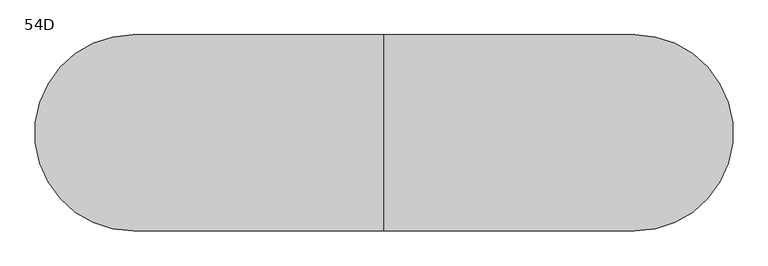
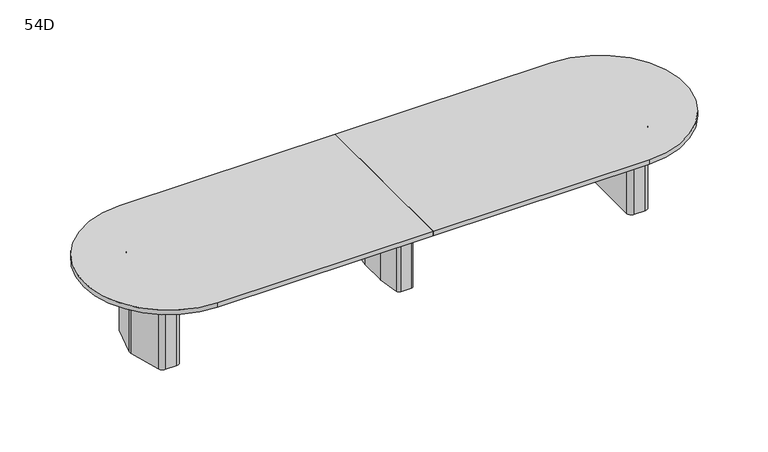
"""IFC4 building model written with IfcOpenShell, lengths in millimetres: furniture geometry, Coalesse_AM_Table_Conference_ETable2_Racetrack_16ft_ThreeBase : 54D."""

from ifc_helpers import new_model, si_unit, point, frame, frame_2d, origin, place, context, project, spatial, polyline, circle_curve, trimmed, segment, composite_curve, outline, extrude, source, transform, mapped, element, save
from ifc_brep_helpers import plane_surface, cylinder_surface, revolved_surface, advanced_brep


def furniture_54d_5252a1df(model_context):
    return source(origin(), model_context, "Body", "SolidModel", [
        advanced_brep(
        [(35.71875, 206.375, 3.175), (10.31875, 231.775, 3.175), (-10.31875, 231.775, 3.175), (-35.71875, 206.375, 3.175), (-35.71875, -206.375, 3.175), (-10.31875, -231.775, 3.175), (10.31875, -231.775, 3.175), (35.71875, -206.375, 3.175), (-61.11875, 206.375, 0.0), (-10.31875, 257.175, 0.0), (10.31875, 257.175, 0.0), (61.11875, 206.375, 0.0), (61.11875, -206.375, 0.0), (10.31875, -257.175, 0.0), (-10.31875, -257.175, 0.0), (-61.11875, -206.375, 0.0), (-61.11875, -206.375, 3.175), (-61.11875, 206.375, 3.175), (-10.31875, -257.175, 3.175), (10.31875, -257.175, 3.175), (61.11875, -206.375, 3.175), (61.11875, 206.375, 3.175), (10.31875, 257.175, 3.175), (-10.31875, 257.175, 3.175), (-92.6215974, 106.2976848, 698.5), (-92.86875, 102.7629613, 698.5), (-92.86875, -102.7629613, 698.5), (-92.6215974, -106.2976848, 698.5), (-67.7988375, -282.9347235, 698.5), (-42.6459902, -304.8, 698.5), (42.6459902, -304.8, 698.5), (67.7988375, -282.9347235, 698.5), (92.6215974, -106.2976848, 698.5), (92.86875, -102.7629613, 698.5), (92.86875, 102.7629613, 698.5), (92.6215974, 106.2976848, 698.5), (67.7988375, 282.9347235, 698.5), (42.6459902, 304.8, 698.5), (-42.6459902, 304.8, 698.5), (-67.7988375, 282.9347235, 698.5), (10.31875, 231.775, 698.5), (35.71875, 206.375, 698.5), (35.71875, -206.375, 698.5), (10.31875, -231.775, 698.5), (-10.31875, -231.775, 698.5), (-35.71875, -206.375, 698.5), (-35.71875, 206.375, 698.5), (-10.31875, 231.775, 698.5), (-92.6215974, 106.2976848, 3.175), (-67.7988375, 282.9347235, 3.175), (-42.6459902, 304.8, 3.175), (42.6459902, 304.8, 3.175), (67.7988375, 282.9347235, 3.175), (92.6215974, 106.2976848, 3.175), (92.86875, 102.7629613, 3.175), (92.86875, -102.7629613, 3.175), (92.6215974, -106.2976848, 3.175), (67.7988375, -282.9347235, 3.175), (42.6459902, -304.8, 3.175), (-42.6459902, -304.8, 3.175), (-67.7988375, -282.9347235, 3.175), (-92.6215974, -106.2976848, 3.175), (-92.86875, -102.7629613, 3.175), (-92.86875, 102.7629613, 3.175)],
        [
            (0, 1, circle_curve(frame((10.31875, 206.375, 3.175), z_axis=(0.0, 0.0, 1.0), x_axis=(1.0, 0.0, 0.0)), 25.4)),
            (1, 2),
            (2, 3, circle_curve(frame((-10.31875, 206.375, 3.175), z_axis=(0.0, 0.0, 1.0), x_axis=(1.0, 0.0, 0.0)), 25.4)),
            (3, 4),
            (4, 5, circle_curve(frame((-10.31875, -206.375, 3.175), z_axis=(0.0, 0.0, 1.0), x_axis=(1.0, 0.0, 0.0)), 25.4)),
            (5, 6),
            (6, 7, circle_curve(frame((10.31875, -206.375, 3.175), z_axis=(0.0, 0.0, 1.0), x_axis=(1.0, 0.0, 0.0)), 25.4)),
            (7, 0),
            (8, 9, circle_curve(frame((-10.31875, 206.375, 0.0), z_axis=(0.0, 0.0, -1.0), x_axis=(1.0, 0.0, 0.0)), 50.8)),
            (9, 10),
            (10, 11, circle_curve(frame((10.31875, 206.375, 0.0), z_axis=(0.0, 0.0, -1.0), x_axis=(1.0, 0.0, 0.0)), 50.8)),
            (11, 12),
            (12, 13, circle_curve(frame((10.31875, -206.375, 0.0), z_axis=(0.0, 0.0, -1.0), x_axis=(1.0, 0.0, 0.0)), 50.8)),
            (13, 14),
            (14, 15, circle_curve(frame((-10.31875, -206.375, 0.0), z_axis=(0.0, 0.0, -1.0), x_axis=(1.0, 0.0, 0.0)), 50.8)),
            (15, 8),
            (15, 16),
            (16, 17),
            (17, 8),
            (14, 18),
            (18, 16, circle_curve(frame((-10.31875, -206.375, 3.175), z_axis=(0.0, 0.0, -1.0), x_axis=(1.0, 0.0, 0.0)), 50.8)),
            (13, 19),
            (19, 18),
            (12, 20),
            (20, 19, circle_curve(frame((10.31875, -206.375, 3.175), z_axis=(0.0, 0.0, -1.0), x_axis=(1.0, 0.0, 0.0)), 50.8)),
            (11, 21),
            (21, 20),
            (10, 22),
            (22, 21, circle_curve(frame((10.31875, 206.375, 3.175), z_axis=(0.0, 0.0, -1.0), x_axis=(1.0, 0.0, 0.0)), 50.8)),
            (9, 23),
            (23, 22),
            (17, 23, circle_curve(frame((-10.31875, 206.375, 3.175), z_axis=(0.0, 0.0, -1.0), x_axis=(1.0, 0.0, 0.0)), 50.8)),
            (24, 25, circle_curve(frame((-67.46875, 102.7629613, 698.5), z_axis=(0.0, 0.0, 1.0), x_axis=(1.0, 0.0, 0.0)), 25.4)),
            (25, 26),
            (26, 27, circle_curve(frame((-67.46875, -102.7629613, 698.5), z_axis=(0.0, 0.0, 1.0), x_axis=(1.0, 0.0, 0.0)), 25.4)),
            (27, 28),
            (28, 29, circle_curve(frame((-42.6459902, -279.4, 698.5), z_axis=(0.0, 0.0, 1.0), x_axis=(1.0, 0.0, 0.0)), 25.4)),
            (29, 30),
            (30, 31, circle_curve(frame((42.6459902, -279.4, 698.5), z_axis=(0.0, 0.0, 1.0), x_axis=(1.0, 0.0, 0.0)), 25.4)),
            (31, 32),
            (32, 33, circle_curve(frame((67.46875, -102.7629613, 698.5), z_axis=(0.0, 0.0, 1.0), x_axis=(1.0, 0.0, 0.0)), 25.4)),
            (33, 34),
            (34, 35, circle_curve(frame((67.46875, 102.7629613, 698.5), z_axis=(0.0, 0.0, 1.0), x_axis=(1.0, 0.0, 0.0)), 25.4)),
            (35, 36),
            (36, 37, circle_curve(frame((42.6459902, 279.4, 698.5), z_axis=(0.0, 0.0, 1.0), x_axis=(1.0, 0.0, 0.0)), 25.4)),
            (37, 38),
            (38, 39, circle_curve(frame((-42.6459902, 279.4, 698.5), z_axis=(0.0, 0.0, 1.0), x_axis=(1.0, 0.0, 0.0)), 25.4)),
            (39, 24),
            (40, 41, circle_curve(frame((10.31875, 206.375, 698.5), z_axis=(0.0, 0.0, -1.0), x_axis=(1.0, 0.0, 0.0)), 25.4)),
            (41, 42),
            (42, 43, circle_curve(frame((10.31875, -206.375, 698.5), z_axis=(0.0, 0.0, -1.0), x_axis=(1.0, 0.0, 0.0)), 25.4)),
            (43, 44),
            (44, 45, circle_curve(frame((-10.31875, -206.375, 698.5), z_axis=(0.0, 0.0, -1.0), x_axis=(1.0, 0.0, 0.0)), 25.4)),
            (45, 46),
            (46, 47, circle_curve(frame((-10.31875, 206.375, 698.5), z_axis=(0.0, 0.0, -1.0), x_axis=(1.0, 0.0, 0.0)), 25.4)),
            (47, 40),
            (48, 49),
            (49, 50, circle_curve(frame((-42.6459902, 279.4, 3.175), z_axis=(0.0, 0.0, -1.0), x_axis=(1.0, 0.0, 0.0)), 25.4)),
            (50, 51),
            (51, 52, circle_curve(frame((42.6459902, 279.4, 3.175), z_axis=(0.0, 0.0, -1.0), x_axis=(1.0, 0.0, 0.0)), 25.4)),
            (52, 53),
            (53, 54, circle_curve(frame((67.46875, 102.7629613, 3.175), z_axis=(0.0, 0.0, -1.0), x_axis=(1.0, 0.0, 0.0)), 25.4)),
            (54, 55),
            (55, 56, circle_curve(frame((67.46875, -102.7629613, 3.175), z_axis=(0.0, 0.0, -1.0), x_axis=(1.0, 0.0, 0.0)), 25.4)),
            (56, 57),
            (57, 58, circle_curve(frame((42.6459902, -279.4, 3.175), z_axis=(0.0, 0.0, -1.0), x_axis=(1.0, 0.0, 0.0)), 25.4)),
            (58, 59),
            (59, 60, circle_curve(frame((-42.6459902, -279.4, 3.175), z_axis=(0.0, 0.0, -1.0), x_axis=(1.0, 0.0, 0.0)), 25.4)),
            (60, 61),
            (61, 62, circle_curve(frame((-67.46875, -102.7629613, 3.175), z_axis=(0.0, 0.0, -1.0), x_axis=(1.0, 0.0, 0.0)), 25.4)),
            (62, 63),
            (63, 48, circle_curve(frame((-67.46875, 102.7629613, 3.175), z_axis=(0.0, 0.0, -1.0), x_axis=(1.0, 0.0, 0.0)), 25.4)),
            (24, 48),
            (63, 25),
            (62, 26),
            (61, 27),
            (60, 28),
            (59, 29),
            (58, 30),
            (57, 31),
            (56, 32),
            (55, 33),
            (54, 34),
            (53, 35),
            (52, 36),
            (51, 37),
            (50, 38),
            (49, 39),
            (40, 1),
            (0, 41),
            (7, 42),
            (6, 43),
            (5, 44),
            (4, 45),
            (3, 46),
            (2, 47),
        ],
        [
            plane_surface(frame((-61.11875, -206.375, 3.175), z_axis=(0.0, 0.0, 1.0), x_axis=(0.0, -1.0, 0.0))),
            plane_surface(frame((-61.11875, -206.375, 0.0), z_axis=(0.0, 0.0, -1.0), x_axis=(0.0, 1.0, 0.0))),
            plane_surface(frame((-61.11875, 206.375, 3.175), z_axis=(-1.0, 0.0, 0.0), x_axis=(0.0, 0.0, -1.0))),
            cylinder_surface(frame((-10.31875, -206.375, 0.0), z_axis=(0.0, 0.0, 1.0), x_axis=(1.0, 0.0, 0.0)), 50.8),
            plane_surface(frame((-10.31875, -257.175, 3.175), z_axis=(0.0, -1.0, 0.0), x_axis=(0.0, 0.0, -1.0))),
            cylinder_surface(frame((10.31875, -206.375, 0.0), z_axis=(0.0, 0.0, 1.0), x_axis=(1.0, 0.0, 0.0)), 50.8),
            plane_surface(frame((61.11875, -206.375, 3.175), z_axis=(1.0, 0.0, 0.0), x_axis=(0.0, 0.0, -1.0))),
            cylinder_surface(frame((10.31875, 206.375, 0.0), z_axis=(0.0, 0.0, 1.0), x_axis=(1.0, 0.0, 0.0)), 50.8),
            plane_surface(frame((10.31875, 257.175, 3.175), z_axis=(0.0, 1.0, 0.0), x_axis=(0.0, 0.0, -1.0))),
            cylinder_surface(frame((-10.31875, 206.375, 0.0), z_axis=(0.0, 0.0, 1.0), x_axis=(1.0, 0.0, 0.0)), 50.8),
            plane_surface(frame((-42.06875, 102.7629613, 698.5), z_axis=(0.0, 0.0, 1.0), x_axis=(0.0, 1.0, 0.0))),
            plane_surface(frame((-42.06875, 102.7629613, 3.175), z_axis=(0.0, 0.0, -1.0), x_axis=(0.0, -1.0, 0.0))),
            cylinder_surface(frame((-67.46875, 102.7629613, 3.175), z_axis=(0.0, 0.0, 1.0), x_axis=(1.0, 0.0, 0.0)), 25.4),
            plane_surface(frame((-92.86875, 102.7629613, 698.5), z_axis=(-1.0, 0.0, 0.0), x_axis=(0.0, 0.0, -1.0))),
            cylinder_surface(frame((-67.46875, -102.7629613, 3.175), z_axis=(0.0, 0.0, 1.0), x_axis=(1.0, 0.0, 0.0)), 25.4),
            plane_surface(frame((-92.6215974, -106.2976848, 698.5), z_axis=(-0.9902695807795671, -0.13916234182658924, 0.0), x_axis=(0.0, 0.0, -1.0))),
            cylinder_surface(frame((-42.6459902, -279.4, 3.175), z_axis=(0.0, 0.0, 1.0), x_axis=(1.0, 0.0, 0.0)), 25.4),
            plane_surface(frame((-42.6459902, -304.8, 698.5), z_axis=(0.0, -1.0, 0.0), x_axis=(0.0, 0.0, -1.0))),
            cylinder_surface(frame((42.6459902, -279.4, 3.175), z_axis=(0.0, 0.0, 1.0), x_axis=(1.0, 0.0, 0.0)), 25.4),
            plane_surface(frame((67.7988375, -282.9347235, 698.5), z_axis=(0.9902695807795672, -0.13916234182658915, 0.0), x_axis=(0.0, 0.0, -1.0))),
            cylinder_surface(frame((67.46875, -102.7629613, 3.175), z_axis=(0.0, 0.0, 1.0), x_axis=(1.0, 0.0, 0.0)), 25.4),
            plane_surface(frame((92.86875, -102.7629613, 698.5), z_axis=(1.0, 0.0, 0.0), x_axis=(0.0, 0.0, -1.0))),
            cylinder_surface(frame((67.46875, 102.7629613, 3.175), z_axis=(0.0, 0.0, 1.0), x_axis=(1.0, 0.0, 0.0)), 25.4),
            plane_surface(frame((92.6215974, 106.2976848, 698.5), z_axis=(0.9902695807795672, 0.1391623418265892, 0.0), x_axis=(0.0, 0.0, -1.0))),
            cylinder_surface(frame((42.6459902, 279.4, 3.175), z_axis=(0.0, 0.0, 1.0), x_axis=(1.0, 0.0, 0.0)), 25.4),
            plane_surface(frame((42.6459902, 304.8, 698.5), z_axis=(0.0, 1.0, 0.0), x_axis=(0.0, 0.0, -1.0))),
            cylinder_surface(frame((-42.6459902, 279.4, 3.175), z_axis=(0.0, 0.0, 1.0), x_axis=(1.0, 0.0, 0.0)), 25.4),
            plane_surface(frame((-67.7988375, 282.9347235, 698.5), z_axis=(-0.9902695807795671, 0.13916234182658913, 0.0), x_axis=(0.0, 0.0, -1.0))),
            revolved_surface(polyline([(35.71875, 206.375, 3.175), (35.71875, 206.375, 698.5)]), (10.31875, 206.375, 0.0), (0.0, 0.0, -1.0)),
            plane_surface(frame((35.71875, 206.375, 698.5), z_axis=(-1.0, 0.0, 0.0), x_axis=(0.0, 0.0, -1.0))),
            revolved_surface(polyline([(35.71875, -206.375, 3.175), (35.71875, -206.375, 698.5)]), (10.31875, -206.375, 0.0), (0.0, 0.0, -1.0)),
            plane_surface(frame((10.31875, -231.775, 698.5), z_axis=(0.0, 1.0, 0.0), x_axis=(0.0, 0.0, -1.0))),
            revolved_surface(polyline([(15.081249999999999, -206.375, 3.175), (15.081249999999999, -206.375, 698.5)]), (-10.31875, -206.375, 0.0), (0.0, 0.0, -1.0)),
            plane_surface(frame((-35.71875, -206.375, 698.5), z_axis=(1.0, 0.0, 0.0), x_axis=(0.0, 0.0, -1.0))),
            revolved_surface(polyline([(15.081249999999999, 206.375, 3.175), (15.081249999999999, 206.375, 698.5)]), (-10.31875, 206.375, 0.0), (0.0, 0.0, -1.0)),
            plane_surface(frame((-10.31875, 231.775, 698.5), z_axis=(0.0, -1.0, 0.0), x_axis=(0.0, 0.0, -1.0))),
        ],
        [
            (0, [[1, 2, 3, 4, 5, 6, 7, 8]]),
            (1, [[9, 10, 11, 12, 13, 14, 15, 16]]),
            (2, [[-16, 17, 18, 19]]),
            (3, [[-15, 20, 21, -17]]),
            (4, [[-14, 22, 23, -20]]),
            (5, [[-13, 24, 25, -22]]),
            (6, [[-12, 26, 27, -24]]),
            (7, [[-11, 28, 29, -26]]),
            (8, [[-10, 30, 31, -28]]),
            (9, [[-9, -19, 32, -30]]),
            (10, [[33, 34, 35, 36, 37, 38, 39, 40, 41, 42, 43, 44, 45, 46, 47, 48], [49, 50, 51, 52, 53, 54, 55, 56]]),
            (11, [[57, 58, 59, 60, 61, 62, 63, 64, 65, 66, 67, 68, 69, 70, 71, 72], [-18, -21, -23, -25, -27, -29, -31, -32]]),
            (12, [[-33, 73, -72, 74]]),
            (13, [[-34, -74, -71, 75]]),
            (14, [[-35, -75, -70, 76]]),
            (15, [[-36, -76, -69, 77]]),
            (16, [[-37, -77, -68, 78]]),
            (17, [[-38, -78, -67, 79]]),
            (18, [[-39, -79, -66, 80]]),
            (19, [[-40, -80, -65, 81]]),
            (20, [[-41, -81, -64, 82]]),
            (21, [[-42, -82, -63, 83]]),
            (22, [[-43, -83, -62, 84]]),
            (23, [[-44, -84, -61, 85]]),
            (24, [[-45, -85, -60, 86]]),
            (25, [[-46, -86, -59, 87]]),
            (26, [[-47, -87, -58, 88]]),
            (27, [[-48, -88, -57, -73]]),
            (28, [[-49, 89, -1, 90]]),
            (29, [[-50, -90, -8, 91]]),
            (30, [[-51, -91, -7, 92]]),
            (31, [[-52, -92, -6, 93]]),
            (32, [[-53, -93, -5, 94]]),
            (33, [[-54, -94, -4, 95]]),
            (34, [[-55, -95, -3, 96]]),
            (35, [[-56, -96, -2, -89]]),
        ],
    ),
        advanced_brep(
        [(1979.824548, 274.2093613, 698.5), (1939.9579246, 304.8, 698.5), (1851.025, 304.8, 698.5), (1809.75, 263.525, 698.5), (1809.75, -263.525, 698.5), (1851.025, -304.8, 698.5), (1939.9579246, -304.8, 698.5), (1979.824548, -274.2093613, 698.5), (2050.4503901, -10.6333708, 698.5), (2050.4503901, 10.6333708, 698.5), (1847.85, -206.375, 698.5), (1847.85, 206.375, 698.5), (1873.25, 231.775, 698.5), (1932.2608422, 231.775, 698.5), (1956.795338, 212.9490792, 698.5), (1995.4875, 68.54974, 698.5), (1995.4875, -68.54974, 698.5), (1956.795338, -212.9490792, 698.5), (1932.2608422, -231.775, 698.5), (1873.25, -231.775, 698.5), (1979.824548, 274.2093613, 3.175), (2050.4503901, 10.6333708, 3.175), (2050.4503901, -10.6333708, 3.175), (1979.824548, -274.2093613, 3.175), (1939.9579246, -304.8, 3.175), (1851.025, -304.8, 3.175), (1809.75, -263.525, 3.175), (1809.75, 263.525, 3.175), (1851.025, 304.8, 3.175), (1939.9579246, 304.8, 3.175), (1969.0625859, 216.2361187, 3.175), (1932.2608422, 244.475, 3.175), (1873.25, 244.475, 3.175), (1835.15, 206.375, 3.175), (1835.15, -206.375, 3.175), (1873.25, -244.475, 3.175), (1932.2608422, -244.475, 3.175), (1969.0625859, -216.2361187, 3.175), (2008.1875, -70.2217466, 3.175), (2008.1875, 70.2217466, 3.175), (1873.25, -231.775, 3.175), (1847.85, -206.375, 3.175), (1932.2608422, -231.775, 3.175), (1956.795338, -212.9490792, 3.175), (1995.4875, -68.54974, 3.175), (1995.4875, 68.54974, 3.175), (1956.795338, 212.9490792, 3.175), (1932.2608422, 231.775, 3.175), (1873.25, 231.775, 3.175), (1847.85, 206.375, 3.175), (1969.0625859, 216.2361187, 0.0), (2008.1875, 70.2217466, 0.0), (2008.1875, -70.2217466, 0.0), (1969.0625859, -216.2361187, 0.0), (1932.2608422, -244.475, 0.0), (1873.25, -244.475, 0.0), (1835.15, -206.375, 0.0), (1835.15, 206.375, 0.0), (1873.25, 244.475, 0.0), (1932.2608422, 244.475, 0.0)],
        [
            (0, 1, circle_curve(frame((1939.9579246, 263.5270004, 698.5), z_axis=(0.0, 0.0, 1.0), x_axis=(-1.0, 0.0, 0.0)), 41.2729996)),
            (1, 2),
            (2, 3, circle_curve(frame((1851.025, 263.525, 698.5), z_axis=(0.0, 0.0, 1.0), x_axis=(-1.0, 0.0, 0.0)), 41.275)),
            (3, 4),
            (4, 5, circle_curve(frame((1851.025, -263.525, 698.5), z_axis=(0.0, 0.0, 1.0), x_axis=(-1.0, 0.0, 0.0)), 41.275)),
            (5, 6),
            (6, 7, circle_curve(frame((1939.9579246, -263.5270004, 698.5), z_axis=(0.0, 0.0, 1.0), x_axis=(-1.0, 0.0, 0.0)), 41.2729996)),
            (7, 8),
            (8, 9, circle_curve(frame((2010.7665979, 0.0, 698.5), z_axis=(0.0, 0.0, 1.0), x_axis=(-1.0, 0.0, 0.0)), 41.0837187)),
            (9, 0),
            (10, 11),
            (11, 12, circle_curve(frame((1873.25, 206.375, 698.5), z_axis=(0.0, 0.0, -1.0), x_axis=(-1.0, 0.0, 0.0)), 25.4)),
            (12, 13),
            (13, 14, circle_curve(frame((1932.2608422, 206.375, 698.5), z_axis=(0.0, 0.0, -1.0), x_axis=(-1.0, 0.0, 0.0)), 25.4)),
            (14, 15),
            (15, 16),
            (16, 17),
            (17, 18, circle_curve(frame((1932.2608422, -206.375, 698.5), z_axis=(0.0, 0.0, -1.0), x_axis=(-1.0, 0.0, 0.0)), 25.4)),
            (18, 19),
            (19, 10, circle_curve(frame((1873.25, -206.375, 698.5), z_axis=(0.0, 0.0, -1.0), x_axis=(-1.0, 0.0, 0.0)), 25.4)),
            (20, 21),
            (21, 22, circle_curve(frame((2010.7665979, 0.0, 3.175), z_axis=(0.0, 0.0, -1.0), x_axis=(-1.0, 0.0, 0.0)), 41.0837187)),
            (22, 23),
            (23, 24, circle_curve(frame((1939.9579246, -263.5270004, 3.175), z_axis=(0.0, 0.0, -1.0), x_axis=(-1.0, 0.0, 0.0)), 41.2729996)),
            (24, 25),
            (25, 26, circle_curve(frame((1851.025, -263.525, 3.175), z_axis=(0.0, 0.0, -1.0), x_axis=(-1.0, 0.0, 0.0)), 41.275)),
            (26, 27),
            (27, 28, circle_curve(frame((1851.025, 263.525, 3.175), z_axis=(0.0, 0.0, -1.0), x_axis=(-1.0, 0.0, 0.0)), 41.275)),
            (28, 29),
            (29, 20, circle_curve(frame((1939.9579246, 263.5270004, 3.175), z_axis=(0.0, 0.0, -1.0), x_axis=(-1.0, 0.0, 0.0)), 41.2729996)),
            (30, 31, circle_curve(frame((1932.2608422, 206.375, 3.175), z_axis=(0.0, 0.0, 1.0), x_axis=(-1.0, 0.0, 0.0)), 38.1)),
            (31, 32),
            (32, 33, circle_curve(frame((1873.25, 206.375, 3.175), z_axis=(0.0, 0.0, 1.0), x_axis=(-1.0, 0.0, 0.0)), 38.1)),
            (33, 34),
            (34, 35, circle_curve(frame((1873.25, -206.375, 3.175), z_axis=(0.0, 0.0, 1.0), x_axis=(-1.0, 0.0, 0.0)), 38.1)),
            (35, 36),
            (36, 37, circle_curve(frame((1932.2608422, -206.375, 3.175), z_axis=(0.0, 0.0, 1.0), x_axis=(-1.0, 0.0, 0.0)), 38.1)),
            (37, 38),
            (38, 39),
            (39, 30),
            (9, 21),
            (20, 0),
            (8, 22),
            (7, 23),
            (6, 24),
            (5, 25),
            (4, 26),
            (3, 27),
            (2, 28),
            (1, 29),
            (19, 40),
            (40, 41, circle_curve(frame((1873.25, -206.375, 3.175), z_axis=(0.0, 0.0, -1.0), x_axis=(-1.0, 0.0, 0.0)), 25.4)),
            (41, 10),
            (18, 42),
            (42, 40),
            (17, 43),
            (43, 42, circle_curve(frame((1932.2608422, -206.375, 3.175), z_axis=(0.0, 0.0, -1.0), x_axis=(-1.0, 0.0, 0.0)), 25.4)),
            (16, 44),
            (44, 43),
            (15, 45),
            (45, 44),
            (14, 46),
            (46, 45),
            (13, 47),
            (47, 46, circle_curve(frame((1932.2608422, 206.375, 3.175), z_axis=(0.0, 0.0, -1.0), x_axis=(-1.0, 0.0, 0.0)), 25.4)),
            (12, 48),
            (48, 47),
            (11, 49),
            (49, 48, circle_curve(frame((1873.25, 206.375, 3.175), z_axis=(0.0, 0.0, -1.0), x_axis=(-1.0, 0.0, 0.0)), 25.4)),
            (41, 49),
            (50, 51),
            (51, 52),
            (52, 53),
            (53, 54, circle_curve(frame((1932.2608422, -206.375, 0.0), z_axis=(0.0, 0.0, -1.0), x_axis=(-1.0, 0.0, 0.0)), 38.1)),
            (54, 55),
            (55, 56, circle_curve(frame((1873.25, -206.375, 0.0), z_axis=(0.0, 0.0, -1.0), x_axis=(-1.0, 0.0, 0.0)), 38.1)),
            (56, 57),
            (57, 58, circle_curve(frame((1873.25, 206.375, 0.0), z_axis=(0.0, 0.0, -1.0), x_axis=(-1.0, 0.0, 0.0)), 38.1)),
            (58, 59),
            (59, 50, circle_curve(frame((1932.2608422, 206.375, 0.0), z_axis=(0.0, 0.0, -1.0), x_axis=(-1.0, 0.0, 0.0)), 38.1)),
            (50, 30),
            (39, 51),
            (38, 52),
            (37, 53),
            (36, 54),
            (35, 55),
            (34, 56),
            (33, 57),
            (32, 58),
            (31, 59),
        ],
        [
            plane_surface(frame((2050.4374275, 10.6817473, 698.5), z_axis=(0.0, 0.0, 1.0000000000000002), x_axis=(0.25882201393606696, -0.9659250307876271, 0.0))),
            plane_surface(frame((2050.4374275, 10.6817473, 3.175), z_axis=(0.0, 0.0, -1.0000000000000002), x_axis=(-0.25882201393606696, 0.9659250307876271, 0.0))),
            plane_surface(frame((1979.824548, 274.2093613, 698.5), z_axis=(0.9659250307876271, 0.25882201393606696, 0.0), x_axis=(0.0, 0.0, -1.0))),
            cylinder_surface(frame((2010.7665979, 0.0, 3.175), z_axis=(0.0, 0.0, 1.0), x_axis=(-1.0, 0.0, 0.0)), 41.0837187),
            plane_surface(frame((2050.4503901, -10.6333708, 698.5), z_axis=(0.9659250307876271, -0.2588220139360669, 0.0), x_axis=(0.0, 0.0, -1.0))),
            cylinder_surface(frame((1939.9579246, -263.5270004, 3.175), z_axis=(0.0, 0.0, 1.0), x_axis=(-1.0, 0.0, 0.0)), 41.2729996),
            plane_surface(frame((1939.9579246, -304.8, 698.5), z_axis=(0.0, -1.0, 0.0), x_axis=(0.0, 0.0, -1.0))),
            cylinder_surface(frame((1851.025, -263.525, 3.175), z_axis=(0.0, 0.0, 1.0), x_axis=(-1.0, 0.0, 0.0)), 41.275),
            plane_surface(frame((1809.75, -263.525, 698.5), z_axis=(-1.0, 0.0, 0.0), x_axis=(0.0, 0.0, -1.0))),
            cylinder_surface(frame((1851.025, 263.525, 3.175), z_axis=(0.0, 0.0, 1.0), x_axis=(-1.0, 0.0, 0.0)), 41.275),
            plane_surface(frame((1851.025, 304.8, 698.5), z_axis=(0.0, 1.0, 0.0), x_axis=(0.0, 0.0, -1.0))),
            cylinder_surface(frame((1939.9579246, 263.5270004, 3.175), z_axis=(0.0, 0.0, 1.0), x_axis=(-1.0, 0.0, 0.0)), 41.2729996),
            revolved_surface(polyline([(1847.85, -206.375, 3.175), (1847.85, -206.375, 698.5)]), (1873.25, -206.375, 0.0), (0.0, 0.0, -1.0)),
            plane_surface(frame((1873.25, -231.775, 698.5), z_axis=(0.0, 1.0, 0.0), x_axis=(0.0, 0.0, -1.0))),
            revolved_surface(polyline([(1906.8608422, -206.375, 3.175), (1906.8608422, -206.375, 698.5)]), (1932.2608422, -206.375, 0.0), (0.0, 0.0, -1.0)),
            plane_surface(frame((1956.795338, -212.9490792, 698.5), z_axis=(-0.9659250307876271, 0.2588220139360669, 0.0), x_axis=(0.0, 0.0, -1.0))),
            plane_surface(frame((1995.4875, -68.54974, 698.5), z_axis=(-1.0, 0.0, 0.0), x_axis=(0.0, 0.0, -1.0))),
            plane_surface(frame((1995.4875, 68.54974, 698.5), z_axis=(-0.9659250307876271, -0.25882201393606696, 0.0), x_axis=(0.0, 0.0, -1.0))),
            revolved_surface(polyline([(1906.8608422, 206.375, 3.175), (1906.8608422, 206.375, 698.5)]), (1932.2608422, 206.375, 0.0), (0.0, 0.0, -1.0)),
            plane_surface(frame((1932.2608422, 231.775, 698.5), z_axis=(0.0, -1.0, 0.0), x_axis=(0.0, 0.0, -1.0))),
            revolved_surface(polyline([(1847.85, 206.375, 3.175), (1847.85, 206.375, 698.5)]), (1873.25, 206.375, 0.0), (0.0, 0.0, -1.0)),
            plane_surface(frame((1847.85, 206.375, 698.5), z_axis=(1.0, 0.0, 0.0), x_axis=(0.0, 0.0, -1.0))),
            plane_surface(frame((2007.7547479, 71.8367796, 3.175), z_axis=(0.0, 0.0, 1.0), x_axis=(0.25882201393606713, -0.965925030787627, 0.0))),
            plane_surface(frame((2007.7547479, 71.8367796, 0.0), z_axis=(0.0, 0.0, -1.0), x_axis=(-0.25882201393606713, 0.965925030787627, 0.0))),
            plane_surface(frame((1969.0625859, 216.2361187, 3.175), z_axis=(0.965925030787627, 0.25882201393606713, 0.0), x_axis=(0.0, 0.0, -1.0))),
            plane_surface(frame((2008.1875, 70.2217466, 3.175), z_axis=(1.0, 0.0, 0.0), x_axis=(0.0, 0.0, -1.0))),
            plane_surface(frame((2008.1875, -70.2217466, 3.175), z_axis=(0.9659250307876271, -0.2588220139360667, 0.0), x_axis=(0.0, 0.0, -1.0))),
            cylinder_surface(frame((1932.2608422, -206.375, 0.0), z_axis=(0.0, 0.0, 1.0), x_axis=(-1.0, 0.0, 0.0)), 38.1),
            plane_surface(frame((1932.2608422, -244.475, 3.175), z_axis=(0.0, -1.0, 0.0), x_axis=(0.0, 0.0, -1.0))),
            cylinder_surface(frame((1873.25, -206.375, 0.0), z_axis=(0.0, 0.0, 1.0), x_axis=(-1.0, 0.0, 0.0)), 38.1),
            plane_surface(frame((1835.15, -206.375, 3.175), z_axis=(-1.0, 0.0, 0.0), x_axis=(0.0, 0.0, -1.0))),
            cylinder_surface(frame((1873.25, 206.375, 0.0), z_axis=(0.0, 0.0, 1.0), x_axis=(-1.0, 0.0, 0.0)), 38.1),
            plane_surface(frame((1873.25, 244.475, 3.175), z_axis=(0.0, 1.0, 0.0), x_axis=(0.0, 0.0, -1.0))),
            cylinder_surface(frame((1932.2608422, 206.375, 0.0), z_axis=(0.0, 0.0, 1.0), x_axis=(-1.0, 0.0, 0.0)), 38.1),
        ],
        [
            (0, [[1, 2, 3, 4, 5, 6, 7, 8, 9, 10], [11, 12, 13, 14, 15, 16, 17, 18, 19, 20]]),
            (1, [[21, 22, 23, 24, 25, 26, 27, 28, 29, 30], [31, 32, 33, 34, 35, 36, 37, 38, 39, 40]]),
            (2, [[41, -21, 42, -10]]),
            (3, [[43, -22, -41, -9]]),
            (4, [[44, -23, -43, -8]]),
            (5, [[45, -24, -44, -7]]),
            (6, [[46, -25, -45, -6]]),
            (7, [[47, -26, -46, -5]]),
            (8, [[48, -27, -47, -4]]),
            (9, [[49, -28, -48, -3]]),
            (10, [[50, -29, -49, -2]]),
            (11, [[-42, -30, -50, -1]]),
            (12, [[51, 52, 53, -20]]),
            (13, [[54, 55, -51, -19]]),
            (14, [[56, 57, -54, -18]]),
            (15, [[58, 59, -56, -17]]),
            (16, [[60, 61, -58, -16]]),
            (17, [[62, 63, -60, -15]]),
            (18, [[64, 65, -62, -14]]),
            (19, [[66, 67, -64, -13]]),
            (20, [[68, 69, -66, -12]]),
            (21, [[-53, 70, -68, -11]]),
            (22, [[-55, -57, -59, -61, -63, -65, -67, -69, -70, -52]]),
            (23, [[71, 72, 73, 74, 75, 76, 77, 78, 79, 80]]),
            (24, [[81, -40, 82, -71]]),
            (25, [[-82, -39, 83, -72]]),
            (26, [[-83, -38, 84, -73]]),
            (27, [[-84, -37, 85, -74]]),
            (28, [[-85, -36, 86, -75]]),
            (29, [[-86, -35, 87, -76]]),
            (30, [[-87, -34, 88, -77]]),
            (31, [[-88, -33, 89, -78]]),
            (32, [[-89, -32, 90, -79]]),
            (33, [[-90, -31, -81, -80]]),
        ],
    ),
        advanced_brep(
        [(-1990.937048, 274.2093613, 698.5), (-2061.5628901, 10.6333708, 698.5), (-2061.5628901, -10.6333708, 698.5), (-1990.937048, -274.2093613, 698.5), (-1951.0704246, -304.8, 698.5), (-1862.1375, -304.8, 698.5), (-1820.8625, -263.525, 698.5), (-1820.8625, 263.525, 698.5), (-1862.1375, 304.8, 698.5), (-1951.0704246, 304.8, 698.5), (-1858.9625, -206.375, 698.5), (-1884.3625, -231.775, 698.5), (-1943.3733422, -231.775, 698.5), (-1967.907838, -212.9490792, 698.5), (-2006.6, -68.54974, 698.5), (-2006.6, 68.54974, 698.5), (-1967.907838, 212.9490792, 698.5), (-1943.3733422, 231.775, 698.5), (-1884.3625, 231.775, 698.5), (-1858.9625, 206.375, 698.5), (-1990.937048, 274.2093613, 3.175), (-1951.0704246, 304.8, 3.175), (-1862.1375, 304.8, 3.175), (-1820.8625, 263.525, 3.175), (-1820.8625, -263.525, 3.175), (-1862.1375, -304.8, 3.175), (-1951.0704246, -304.8, 3.175), (-1990.937048, -274.2093613, 3.175), (-2061.5628901, -10.6333708, 3.175), (-2061.5628901, 10.6333708, 3.175), (-1980.1750859, 216.2361187, 3.175), (-2019.3, 70.2217466, 3.175), (-2019.3, -70.2217466, 3.175), (-1980.1750859, -216.2361187, 3.175), (-1943.3733422, -244.475, 3.175), (-1884.3625, -244.475, 3.175), (-1846.2625, -206.375, 3.175), (-1846.2625, 206.375, 3.175), (-1884.3625, 244.475, 3.175), (-1943.3733422, 244.475, 3.175), (-1858.9625, -206.375, 3.175), (-1884.3625, -231.775, 3.175), (-1943.3733422, -231.775, 3.175), (-1967.907838, -212.9490792, 3.175), (-2006.6, -68.54974, 3.175), (-2006.6, 68.54974, 3.175), (-1967.907838, 212.9490792, 3.175), (-1943.3733422, 231.775, 3.175), (-1884.3625, 231.775, 3.175), (-1858.9625, 206.375, 3.175), (-1980.1750859, 216.2361187, 0.0), (-1943.3733422, 244.475, 0.0), (-1884.3625, 244.475, 0.0), (-1846.2625, 206.375, 0.0), (-1846.2625, -206.375, 0.0), (-1884.3625, -244.475, 0.0), (-1943.3733422, -244.475, 0.0), (-1980.1750859, -216.2361187, 0.0), (-2019.3, -70.2217466, 0.0), (-2019.3, 70.2217466, 0.0)],
        [
            (0, 1),
            (1, 2, circle_curve(frame((-2021.8790979, 0.0, 698.5), z_axis=(0.0, 0.0, 1.0), x_axis=(1.0, 0.0, 0.0)), 41.0837187)),
            (2, 3),
            (3, 4, circle_curve(frame((-1951.0704246, -263.5270004, 698.5), z_axis=(0.0, 0.0, 1.0), x_axis=(1.0, 0.0, 0.0)), 41.2729996)),
            (4, 5),
            (5, 6, circle_curve(frame((-1862.1375, -263.525, 698.5), z_axis=(0.0, 0.0, 1.0), x_axis=(1.0, 0.0, 0.0)), 41.275)),
            (6, 7),
            (7, 8, circle_curve(frame((-1862.1375, 263.525, 698.5), z_axis=(0.0, 0.0, 1.0), x_axis=(1.0, 0.0, 0.0)), 41.275)),
            (8, 9),
            (9, 0, circle_curve(frame((-1951.0704246, 263.5270004, 698.5), z_axis=(0.0, 0.0, 1.0), x_axis=(1.0, 0.0, 0.0)), 41.2729996)),
            (10, 11, circle_curve(frame((-1884.3625, -206.375, 698.5), z_axis=(0.0, 0.0, -1.0), x_axis=(1.0, 0.0, 0.0)), 25.4)),
            (11, 12),
            (12, 13, circle_curve(frame((-1943.3733422, -206.375, 698.5), z_axis=(0.0, 0.0, -1.0), x_axis=(1.0, 0.0, 0.0)), 25.4)),
            (13, 14),
            (14, 15),
            (15, 16),
            (16, 17, circle_curve(frame((-1943.3733422, 206.375, 698.5), z_axis=(0.0, 0.0, -1.0), x_axis=(1.0, 0.0, 0.0)), 25.4)),
            (17, 18),
            (18, 19, circle_curve(frame((-1884.3625, 206.375, 698.5), z_axis=(0.0, 0.0, -1.0), x_axis=(1.0, 0.0, 0.0)), 25.4)),
            (19, 10),
            (20, 21, circle_curve(frame((-1951.0704246, 263.5270004, 3.175), z_axis=(0.0, 0.0, -1.0), x_axis=(1.0, 0.0, 0.0)), 41.2729996)),
            (21, 22),
            (22, 23, circle_curve(frame((-1862.1375, 263.525, 3.175), z_axis=(0.0, 0.0, -1.0), x_axis=(1.0, 0.0, 0.0)), 41.275)),
            (23, 24),
            (24, 25, circle_curve(frame((-1862.1375, -263.525, 3.175), z_axis=(0.0, 0.0, -1.0), x_axis=(1.0, 0.0, 0.0)), 41.275)),
            (25, 26),
            (26, 27, circle_curve(frame((-1951.0704246, -263.5270004, 3.175), z_axis=(0.0, 0.0, -1.0), x_axis=(1.0, 0.0, 0.0)), 41.2729996)),
            (27, 28),
            (28, 29, circle_curve(frame((-2021.8790979, 0.0, 3.175), z_axis=(0.0, 0.0, -1.0), x_axis=(1.0, 0.0, 0.0)), 41.0837187)),
            (29, 20),
            (30, 31),
            (31, 32),
            (32, 33),
            (33, 34, circle_curve(frame((-1943.3733422, -206.375, 3.175), z_axis=(0.0, 0.0, 1.0), x_axis=(1.0, 0.0, 0.0)), 38.1)),
            (34, 35),
            (35, 36, circle_curve(frame((-1884.3625, -206.375, 3.175), z_axis=(0.0, 0.0, 1.0), x_axis=(1.0, 0.0, 0.0)), 38.1)),
            (36, 37),
            (37, 38, circle_curve(frame((-1884.3625, 206.375, 3.175), z_axis=(0.0, 0.0, 1.0), x_axis=(1.0, 0.0, 0.0)), 38.1)),
            (38, 39),
            (39, 30, circle_curve(frame((-1943.3733422, 206.375, 3.175), z_axis=(0.0, 0.0, 1.0), x_axis=(1.0, 0.0, 0.0)), 38.1)),
            (0, 20),
            (29, 1),
            (28, 2),
            (27, 3),
            (26, 4),
            (25, 5),
            (24, 6),
            (23, 7),
            (22, 8),
            (21, 9),
            (10, 40),
            (40, 41, circle_curve(frame((-1884.3625, -206.375, 3.175), z_axis=(0.0, 0.0, -1.0), x_axis=(1.0, 0.0, 0.0)), 25.4)),
            (41, 11),
            (41, 42),
            (42, 12),
            (42, 43, circle_curve(frame((-1943.3733422, -206.375, 3.175), z_axis=(0.0, 0.0, -1.0), x_axis=(1.0, 0.0, 0.0)), 25.4)),
            (43, 13),
            (43, 44),
            (44, 14),
            (44, 45),
            (45, 15),
            (45, 46),
            (46, 16),
            (46, 47, circle_curve(frame((-1943.3733422, 206.375, 3.175), z_axis=(0.0, 0.0, -1.0), x_axis=(1.0, 0.0, 0.0)), 25.4)),
            (47, 17),
            (47, 48),
            (48, 18),
            (48, 49, circle_curve(frame((-1884.3625, 206.375, 3.175), z_axis=(0.0, 0.0, -1.0), x_axis=(1.0, 0.0, 0.0)), 25.4)),
            (49, 19),
            (49, 40),
            (50, 51, circle_curve(frame((-1943.3733422, 206.375, 0.0), z_axis=(0.0, 0.0, -1.0), x_axis=(1.0, 0.0, 0.0)), 38.1)),
            (51, 52),
            (52, 53, circle_curve(frame((-1884.3625, 206.375, 0.0), z_axis=(0.0, 0.0, -1.0), x_axis=(1.0, 0.0, 0.0)), 38.1)),
            (53, 54),
            (54, 55, circle_curve(frame((-1884.3625, -206.375, 0.0), z_axis=(0.0, 0.0, -1.0), x_axis=(1.0, 0.0, 0.0)), 38.1)),
            (55, 56),
            (56, 57, circle_curve(frame((-1943.3733422, -206.375, 0.0), z_axis=(0.0, 0.0, -1.0), x_axis=(1.0, 0.0, 0.0)), 38.1)),
            (57, 58),
            (58, 59),
            (59, 50),
            (59, 31),
            (30, 50),
            (58, 32),
            (57, 33),
            (56, 34),
            (55, 35),
            (54, 36),
            (53, 37),
            (52, 38),
            (51, 39),
        ],
        [
            plane_surface(frame((-2061.5499275, 10.6817473, 698.5), z_axis=(0.0, 0.0, 1.0000000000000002), x_axis=(-0.25882201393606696, -0.9659250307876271, 0.0))),
            plane_surface(frame((-2061.5499275, 10.6817473, 3.175), z_axis=(0.0, 0.0, -1.0000000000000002), x_axis=(0.25882201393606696, 0.9659250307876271, 0.0))),
            plane_surface(frame((-1990.937048, 274.2093613, 698.5), z_axis=(-0.9659250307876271, 0.25882201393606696, 0.0), x_axis=(0.0, 0.0, -1.0))),
            cylinder_surface(frame((-2021.8790979, 0.0, 3.175), z_axis=(0.0, 0.0, 1.0), x_axis=(1.0, 0.0, 0.0)), 41.0837187),
            plane_surface(frame((-2061.5628901, -10.6333708, 698.5), z_axis=(-0.9659250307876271, -0.2588220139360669, 0.0), x_axis=(0.0, 0.0, -1.0))),
            cylinder_surface(frame((-1951.0704246, -263.5270004, 3.175), z_axis=(0.0, 0.0, 1.0), x_axis=(1.0, 0.0, 0.0)), 41.2729996),
            plane_surface(frame((-1951.0704246, -304.8, 698.5), z_axis=(0.0, -1.0, 0.0), x_axis=(0.0, 0.0, -1.0))),
            cylinder_surface(frame((-1862.1375, -263.525, 3.175), z_axis=(0.0, 0.0, 1.0), x_axis=(1.0, 0.0, 0.0)), 41.275),
            plane_surface(frame((-1820.8625, -263.525, 698.5), z_axis=(1.0, 0.0, 0.0), x_axis=(0.0, 0.0, -1.0))),
            cylinder_surface(frame((-1862.1375, 263.525, 3.175), z_axis=(0.0, 0.0, 1.0), x_axis=(1.0, 0.0, 0.0)), 41.275),
            plane_surface(frame((-1862.1375, 304.8, 698.5), z_axis=(0.0, 1.0, 0.0), x_axis=(0.0, 0.0, -1.0))),
            cylinder_surface(frame((-1951.0704246, 263.5270004, 3.175), z_axis=(0.0, 0.0, 1.0), x_axis=(1.0, 0.0, 0.0)), 41.2729996),
            revolved_surface(polyline([(-1858.9624999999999, -206.375, 3.175), (-1858.9624999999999, -206.375, 698.5)]), (-1884.3625, -206.375, 0.0), (0.0, 0.0, -1.0)),
            plane_surface(frame((-1884.3625, -231.775, 698.5), z_axis=(0.0, 1.0, 0.0), x_axis=(0.0, 0.0, -1.0))),
            revolved_surface(polyline([(-1917.9733422, -206.375, 3.175), (-1917.9733422, -206.375, 698.5)]), (-1943.3733422, -206.375, 0.0), (0.0, 0.0, -1.0)),
            plane_surface(frame((-1967.907838, -212.9490792, 698.5), z_axis=(0.9659250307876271, 0.2588220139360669, 0.0), x_axis=(0.0, 0.0, -1.0))),
            plane_surface(frame((-2006.6, -68.54974, 698.5), z_axis=(1.0, 0.0, 0.0), x_axis=(0.0, 0.0, -1.0))),
            plane_surface(frame((-2006.6, 68.54974, 698.5), z_axis=(0.9659250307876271, -0.25882201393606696, 0.0), x_axis=(0.0, 0.0, -1.0))),
            revolved_surface(polyline([(-1917.9733422, 206.375, 3.175), (-1917.9733422, 206.375, 698.5)]), (-1943.3733422, 206.375, 0.0), (0.0, 0.0, -1.0)),
            plane_surface(frame((-1943.3733422, 231.775, 698.5), z_axis=(0.0, -1.0, 0.0), x_axis=(0.0, 0.0, -1.0))),
            revolved_surface(polyline([(-1858.9624999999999, 206.375, 3.175), (-1858.9624999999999, 206.375, 698.5)]), (-1884.3625, 206.375, 0.0), (0.0, 0.0, -1.0)),
            plane_surface(frame((-1858.9625, 206.375, 698.5), z_axis=(-1.0, 0.0, 0.0), x_axis=(0.0, 0.0, -1.0))),
            plane_surface(frame((-2018.8672479, 71.8367796, 3.175), z_axis=(0.0, 0.0, 1.0), x_axis=(-0.25882201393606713, -0.965925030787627, 0.0))),
            plane_surface(frame((-2018.8672479, 71.8367796, 0.0), z_axis=(0.0, 0.0, -1.0), x_axis=(0.25882201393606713, 0.965925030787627, 0.0))),
            plane_surface(frame((-1980.1750859, 216.2361187, 3.175), z_axis=(-0.965925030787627, 0.25882201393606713, 0.0), x_axis=(0.0, 0.0, -1.0))),
            plane_surface(frame((-2019.3, 70.2217466, 3.175), z_axis=(-1.0, 0.0, 0.0), x_axis=(0.0, 0.0, -1.0))),
            plane_surface(frame((-2019.3, -70.2217466, 3.175), z_axis=(-0.9659250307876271, -0.2588220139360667, 0.0), x_axis=(0.0, 0.0, -1.0))),
            cylinder_surface(frame((-1943.3733422, -206.375, 0.0), z_axis=(0.0, 0.0, 1.0), x_axis=(1.0, 0.0, 0.0)), 38.1),
            plane_surface(frame((-1943.3733422, -244.475, 3.175), z_axis=(0.0, -1.0, 0.0), x_axis=(0.0, 0.0, -1.0))),
            cylinder_surface(frame((-1884.3625, -206.375, 0.0), z_axis=(0.0, 0.0, 1.0), x_axis=(1.0, 0.0, 0.0)), 38.1),
            plane_surface(frame((-1846.2625, -206.375, 3.175), z_axis=(1.0, 0.0, 0.0), x_axis=(0.0, 0.0, -1.0))),
            cylinder_surface(frame((-1884.3625, 206.375, 0.0), z_axis=(0.0, 0.0, 1.0), x_axis=(1.0, 0.0, 0.0)), 38.1),
            plane_surface(frame((-1884.3625, 244.475, 3.175), z_axis=(0.0, 1.0, 0.0), x_axis=(0.0, 0.0, -1.0))),
            cylinder_surface(frame((-1943.3733422, 206.375, 0.0), z_axis=(0.0, 0.0, 1.0), x_axis=(1.0, 0.0, 0.0)), 38.1),
        ],
        [
            (0, [[1, 2, 3, 4, 5, 6, 7, 8, 9, 10], [11, 12, 13, 14, 15, 16, 17, 18, 19, 20]]),
            (1, [[21, 22, 23, 24, 25, 26, 27, 28, 29, 30], [31, 32, 33, 34, 35, 36, 37, 38, 39, 40]]),
            (2, [[-1, 41, -30, 42]]),
            (3, [[-2, -42, -29, 43]]),
            (4, [[-3, -43, -28, 44]]),
            (5, [[-4, -44, -27, 45]]),
            (6, [[-5, -45, -26, 46]]),
            (7, [[-6, -46, -25, 47]]),
            (8, [[-7, -47, -24, 48]]),
            (9, [[-8, -48, -23, 49]]),
            (10, [[-9, -49, -22, 50]]),
            (11, [[-10, -50, -21, -41]]),
            (12, [[-11, 51, 52, 53]]),
            (13, [[-12, -53, 54, 55]]),
            (14, [[-13, -55, 56, 57]]),
            (15, [[-14, -57, 58, 59]]),
            (16, [[-15, -59, 60, 61]]),
            (17, [[-16, -61, 62, 63]]),
            (18, [[-17, -63, 64, 65]]),
            (19, [[-18, -65, 66, 67]]),
            (20, [[-19, -67, 68, 69]]),
            (21, [[-20, -69, 70, -51]]),
            (22, [[-52, -70, -68, -66, -64, -62, -60, -58, -56, -54]]),
            (23, [[71, 72, 73, 74, 75, 76, 77, 78, 79, 80]]),
            (24, [[-80, 81, -31, 82]]),
            (25, [[-79, 83, -32, -81]]),
            (26, [[-78, 84, -33, -83]]),
            (27, [[-77, 85, -34, -84]]),
            (28, [[-76, 86, -35, -85]]),
            (29, [[-75, 87, -36, -86]]),
            (30, [[-74, 88, -37, -87]]),
            (31, [[-73, 89, -38, -88]]),
            (32, [[-72, 90, -39, -89]]),
            (33, [[-71, -82, -40, -90]]),
        ],
    ),
        extrude(outline(composite_curve([segment(trimmed(circle_curve(frame_2d((1752.6, 0.0)), 685.8), [point((1752.6, 685.8))], [point((1752.6, -685.8))], False, "CARTESIAN"), True, "CONTINUOUS"), segment(polyline([(1752.6, -685.8), (0.0, -685.8), (0.0, 685.8), (1752.6, 685.8)]), True, "CONTINUOUS")], self_intersect=False)), frame((0.0, 0.0, 698.5), z_axis=(0.0, 0.0, 1.0), x_axis=(1.0, 0.0, 0.0)), (0.0, 0.0, 1.0), 38.1),
        extrude(outline(composite_curve([segment(polyline([(0.0, 685.8), (0.0, -685.8), (-1752.6, -685.8)]), True, "CONTINUOUS"), segment(trimmed(circle_curve(frame_2d((-1752.6, 0.0)), 685.8), [point((-1752.6, -685.8))], [point((-1752.6, 685.8))], False, "CARTESIAN"), True, "CONTINUOUS"), segment(polyline([(-1752.6, 685.8), (0.0, 685.8)]), True, "CONTINUOUS")], self_intersect=False)), frame((0.0, 0.0, 698.5), z_axis=(0.0, 0.0, 1.0), x_axis=(1.0, 0.0, 0.0)), (0.0, 0.0, 1.0), 38.1),
        extrude(outline(polyline([(96.8375, 698.5), (103.1875, 698.5), (103.1875, 476.25), (-103.1875, 476.25), (-103.1875, 698.5), (-96.8375, 698.5), (-96.8375, 482.6), (96.8375, 482.6), (96.8375, 698.5)])), frame((-1820.8625, 0.0, 0.0), z_axis=(1.0, 0.0, 0.0), x_axis=(0.0, 1.0, 0.0)), (0.0, 0.0, 1.0), 3630.6125),
    ])


if __name__ == "__main__":
    model = new_model("IFC4")
    model_context = context("Model", 3, world=origin())
    ifc_project = project(units=[si_unit("LENGTHUNIT", "METRE", prefix="MILLI")], contexts=[model_context])
    site = spatial("IfcSite", under=ifc_project)
    building = spatial("IfcBuilding", under=site)
    placement = place(None, origin())
    furniture_54d_shape = furniture_54d_5252a1df(model_context)
    element("IfcFurniture", 1, ObjectType="Coalesse_AM_Table_Conference_ETable2_Racetrack_16ft_ThreeBase : 54D", at=placement, inside=building, context=model_context, shape_type="MappedRepresentation", body=[
        mapped(furniture_54d_shape, transform((0.0, 0.0, 0.0), x_axis=(1.0, 0.0, 0.0), y_axis=(0.0, 1.0, 0.0), z_axis=(0.0, 0.0, 1.0))),
    ])
    save(model, "model.ifc")
